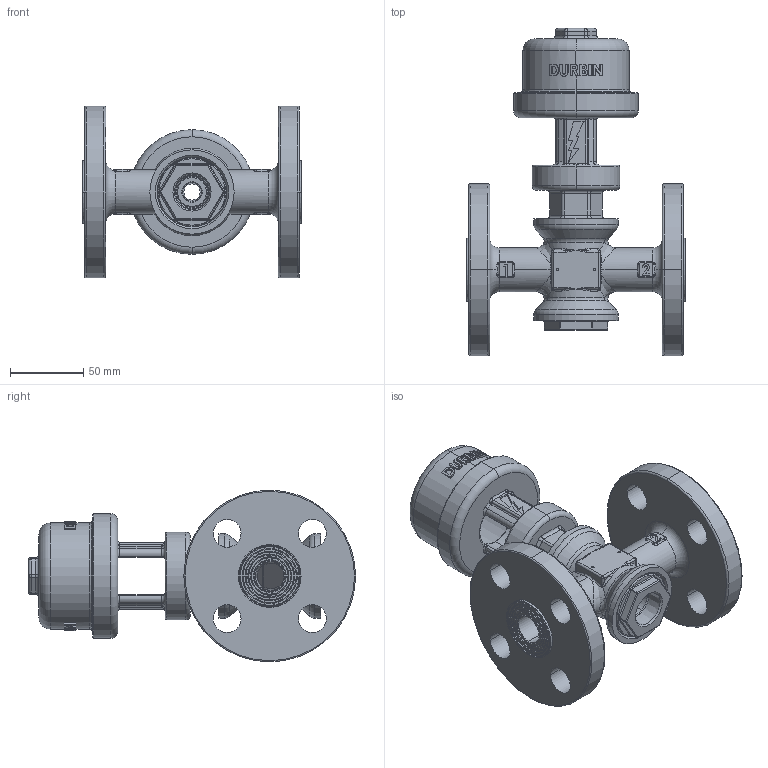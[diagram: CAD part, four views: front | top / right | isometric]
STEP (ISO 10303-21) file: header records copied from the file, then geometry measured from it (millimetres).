
FILE_DESCRIPTION (( 'STEP AP203' ), '1' );
FILE_NAME ('.75 2W-3W FLANGE PSI-STEP.STEP', '2018-11-07T19:08:12', ( '' ), ( '' ), 'SwSTEP 2.0', 'SolidWorks 2012', '' );
FILE_SCHEMA (( 'CONFIG_CONTROL_DESIGN' ));
Length unit declared in the file: inch
Products named in the file (6): .75 2W-3W FLANGE PSI-STEP; PSI-202-SS; DCT-103; PSI-209-SS; DCT-105; PSI-201F-SS
Assembly tree (5 placements, depth 2):
  .75 2W-3W FLANGE PSI-STEP
    PSI-201F-SS
    DCT-105
    PSI-209-SS
    DCT-103
    PSI-202-SS
Bounding box: 149.86 x 224.05 x 117.58 mm (x, y, z)
Volume: 556754.6 mm3; surface area: 173564.1 mm2
Topology: 5 solids, 5 shells, 1216 faces, 2875 edges, 1698 vertices
Faces by surface type: plane 338, cylinder 292, bspline 269, torus 165, cone 114, sphere 38
Entity records: 56169 total; most frequent: CARTESIAN_POINT 29149, ORIENTED_EDGE 5654, DIRECTION 5343, EDGE_CURVE 2827, AXIS2_PLACEMENT_3D 2195, VERTEX_POINT 1698, EDGE_LOOP 1327, CIRCLE 1240
